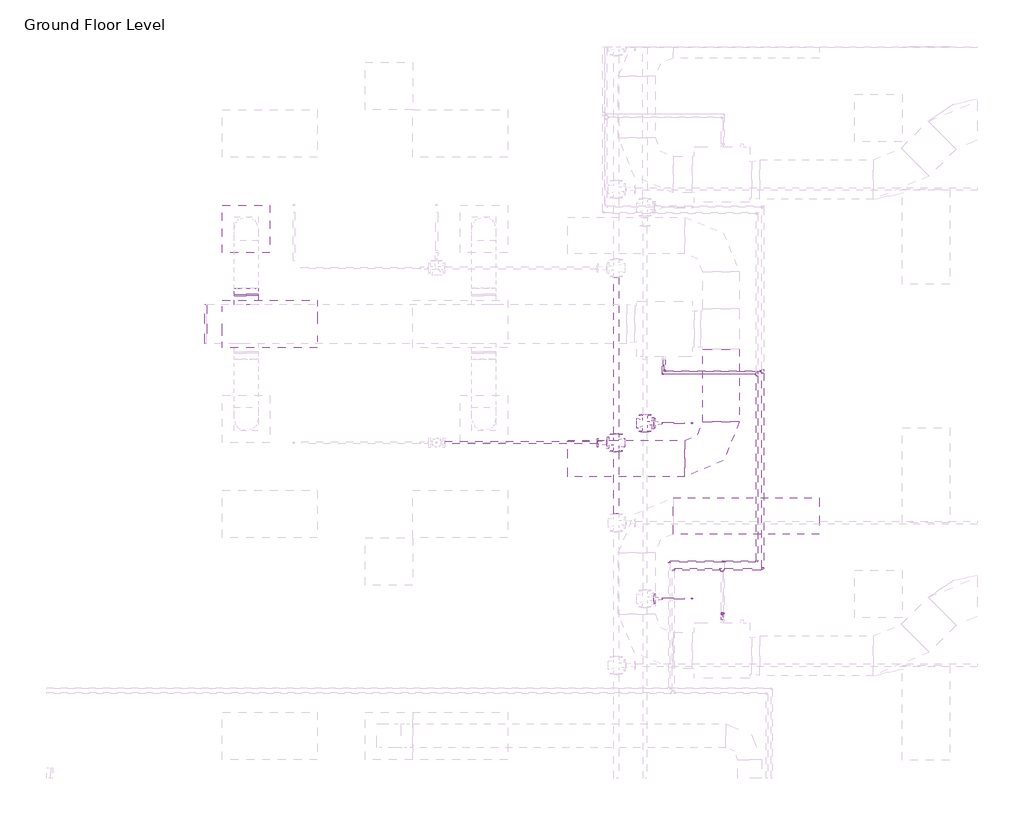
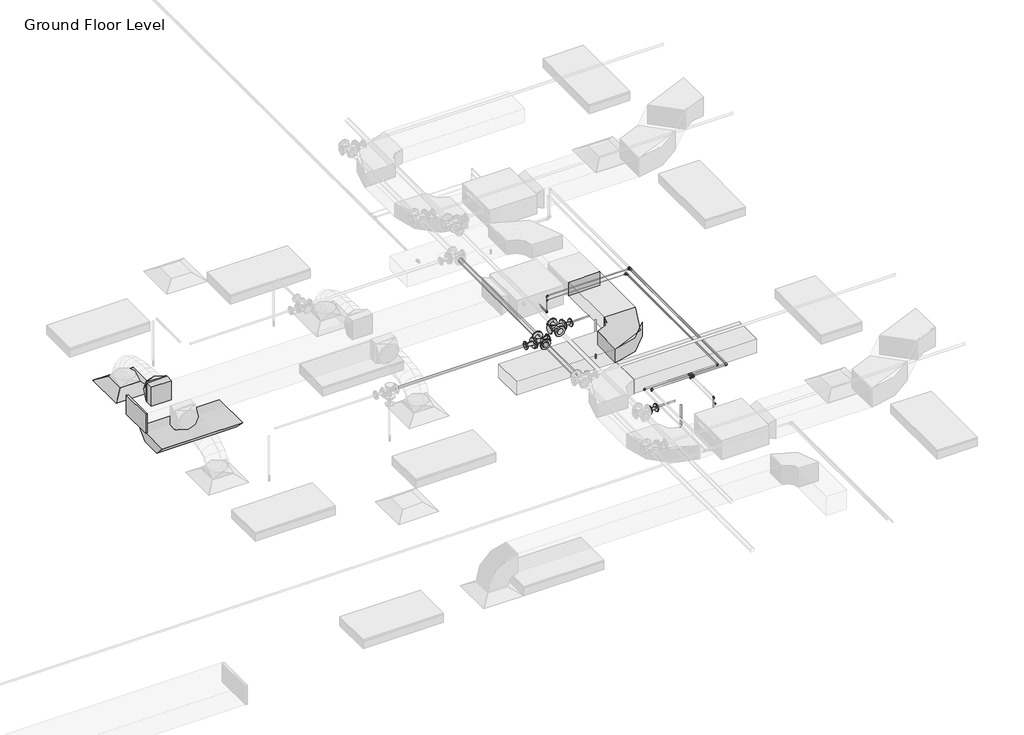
# One storey, part 60 of 74: 25 pipe fittings, 22 pipe segments, 5 duct fittings, 4 duct segments, 2 fire suppression terminals, 1 air terminal, 1 light fixture.
"""IFC4 building model written with IfcOpenShell, lengths in millimetres."""

from ifc_helpers import new_model, si_unit, point, frame, frame_2d, origin, place, context, project, spatial, polyline, circle_curve, trimmed, segment, composite_curve, outline, extrude, transform, mapped, element, save
from components import m_return_diffuser_600_x_600_face_300_x_300_connection_ff221211, m_rectangular_elbow_radius_1_w_0fa52825, m_rectangular_endcap_standard_72d4d00d, m_rectangular_takeoff_standard_2be5eba1, m_rectangular_transition_angle_45_degree_27e6000f, m_rectangular_to_round_transition_angle_45_degree_641efff0, m_sprinkler_pendent_15_mm_pendent_06fcbd8e, m_emergency_recessed_lighting_fixture_600x1200_277_5b10b25d, m_elbow_generic_standard_a088f956, m_elbow_generic_standard_2a704253, m_elbow_generic_standard_73005802, m_elbow_generic_standard_bb5ffebe, m_reducer_flanged_cs_class_150_standard_83138b42, m_reducer_flanged_cs_class_150_standard_5e9b2cee, m_tee_generic_standard_cdc1cff5, m_tee_generic_standard_bbfc025c, m_tee_round_base_flanged_cs_class_150_standard_dd767e04, m_tee_round_base_flanged_cs_class_150_standard_ab36f383, m_transition_generic_standard_e9aec4dd, m_transition_generic_standard_c2658a33

model = new_model("IFC4")

# Units and contexts
model_context = context("Model", 3, world=origin())
ifc_project = project(units=[si_unit("LENGTHUNIT", "METRE", prefix="MILLI")], contexts=[model_context])

# Site, building, storey
site = spatial("IfcSite", under=ifc_project)
building = spatial("IfcBuilding", under=site)
storey = spatial("IfcBuildingStorey", under=building, Name="Ground Floor Level", Elevation=900.0)

# Air terminal
placement = place(None, origin())
m_return_diffuser_600_x_600_face_300_x_300_connection_shape = m_return_diffuser_600_x_600_face_300_x_300_connection_ff221211(model_context)
element("IfcAirTerminal", 1, ObjectType="M_Supply Diffuser : 600 x 600 Face 300 x 300 Connection", at=placement, inside=storey, context=model_context, shape_type="MappedRepresentation", body=[
    mapped(m_return_diffuser_600_x_600_face_300_x_300_connection_shape, transform((962.7672395, 5335.2153534, 3650.0), x_axis=(1.0, 0.0, 0.0), y_axis=(0.0, 1.0, 0.0), z_axis=(0.0, 0.0, 1.0))),
])

# Duct fittings
m_rectangular_elbow_radius_1_w_shape = m_rectangular_elbow_radius_1_w_0fa52825(model_context)
element("IfcDuctFitting", 2, ObjectType="M_Rectangular Elbow - Radius : 1 W", at=placement, inside=storey, context=model_context, shape_type="MappedRepresentation", body=[
    mapped(m_rectangular_elbow_radius_1_w_shape, transform((6958.8139492, 2435.5824167, 4075.2875), x_axis=(1.0, 0.0, 0.0), y_axis=(0.0, 1.0, 0.0), z_axis=(0.0, 0.0, 1.0))),
])
m_rectangular_endcap_standard_shape = m_rectangular_endcap_standard_72d4d00d(model_context)
element("IfcDuctFitting", 3, ObjectType="M_Rectangular Endcap : Standard", at=placement, inside=storey, context=model_context, shape_type="MappedRepresentation", body=[
    mapped(m_rectangular_endcap_standard_shape, transform((468.0139492, 4135.0199167, 4099.9875), x_axis=(-0.9999999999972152, 0.0, -2.3600398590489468e-06), y_axis=(0.0, -1.0000000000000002, 0.0), z_axis=(-2.3600398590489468e-06, 0.0, 0.9999999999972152))),
])
m_rectangular_takeoff_standard_shape = m_rectangular_takeoff_standard_2be5eba1(model_context)
element("IfcDuctFitting", 4, ObjectType="M_Rectangular Takeoff : Standard", at=placement, inside=storey, context=model_context, shape_type="MappedRepresentation", body=[
    mapped(m_rectangular_takeoff_standard_shape, transform((962.7672395, 4385.0199167, 4099.9886676), x_axis=(0.0, 1.0, 0.0), y_axis=(1.0, 0.0, 0.0), z_axis=(0.0, 0.0, -1.0))),
])
m_rectangular_transition_angle_45_degree_shape = m_rectangular_transition_angle_45_degree_27e6000f(model_context)
element("IfcDuctFitting", 5, ObjectType="M_Rectangular Transition - Angle : 45 Degree", at=placement, inside=storey, context=model_context, shape_type="MappedRepresentation", body=[
    mapped(m_rectangular_transition_angle_45_degree_shape, transform((6958.8139492, 3815.5824167, 4075.2875), x_axis=(0.0, -1.0, 0.0), y_axis=(1.0, 0.0, 0.0), z_axis=(0.0, 0.0, 1.0))),
])
m_rectangular_to_round_transition_angle_45_degree_shape = m_rectangular_to_round_transition_angle_45_degree_641efff0(model_context)
element("IfcDuctFitting", 6, ObjectType="M_Rectangular to Round Transition - Angle : 45 Degree", at=placement, inside=storey, context=model_context, shape_type="MappedRepresentation", body=[
    mapped(m_rectangular_to_round_transition_angle_45_degree_shape, transform((962.7672395, 4507.8680897, 4099.9886676), x_axis=(0.0, 1.0, 0.0), y_axis=(-1.0, 0.0, 0.0), z_axis=(0.0, 0.0, 1.0))),
])

# Duct segments
element("IfcDuctSegment", 7, ObjectType="Radius Elbows / Taps", at=placement, inside=storey, context=model_context, shape_type="SweptSolid", body=[
    extrude(outline(polyline([(6355.2889492, 1478.7408949), (6355.2889492, 1940.6158949), (8193.4139492, 1940.6158949), (8193.4139492, 1478.7408949), (6355.2889492, 1478.7408949)])), frame((0.0, 0.0, 3968.1432729), z_axis=(0.0, 0.0, 1.0), x_axis=(1.0, 0.0, 0.0)), (0.0, 0.0, 1.0), 214.3),
])
element("IfcDuctSegment", 8, ObjectType="Radius Elbows / Taps", at=placement, inside=storey, context=model_context, shape_type="SweptSolid", body=[
    extrude(outline(polyline([(6727.8139492, 3815.2202847), (7189.8139492, 3815.2202847), (7189.8139492, 2897.5824167), (6727.8139492, 2897.5824167), (6727.8139492, 3815.2202847)])), frame((0.0, 0.0, 3968.2875), z_axis=(0.0, 0.0, 1.0), x_axis=(1.0, 0.0, 0.0)), (0.0, 0.0, 1.0), 214.0),
])
element("IfcDuctSegment", 9, ObjectType="Radius Elbows / Taps", at=placement, inside=storey, context=model_context, shape_type="SweptSolid", body=[
    extrude(outline(polyline([(6496.8139492, 2666.5824167), (6496.8139492, 2204.5824167), (5018.8139492, 2204.5824167), (5018.8139492, 2666.5824167), (6496.8139492, 2666.5824167)])), frame((0.0, 0.0, 3968.2875), z_axis=(0.0, 0.0, 1.0), x_axis=(1.0, 0.0, 0.0)), (0.0, 0.0, 1.0), 214.0),
])
element("IfcDuctSegment", 10, ObjectType="Radius Elbows / Taps", at=placement, inside=storey, context=model_context, shape_type="SweptSolid", body=[
    extrude(outline(polyline([(1112.7672395, 4486.6199167), (812.7672395, 4486.6199167), (812.7672395, 4507.8680897), (1112.7672395, 4507.8680897), (1112.7672395, 4486.6199167)])), frame((0.0, 0.0, 3949.9886676), z_axis=(0.0, 0.0, 1.0), x_axis=(1.0, 0.0, 0.0)), (0.0, 0.0, 1.0), 300.0),
])

# Fire suppression terminals
m_sprinkler_pendent_15_mm_pendent_shape = m_sprinkler_pendent_15_mm_pendent_06fcbd8e(model_context)
element("IfcFireSuppressionTerminal", 11, ObjectType="M_Sprinkler - Pendent : 15 mm Pendent", at=placement, inside=storey, context=model_context, shape_type="MappedRepresentation", body=[
    mapped(m_sprinkler_pendent_15_mm_pendent_shape, transform((6592.5481019, 2881.5134565, 3650.0), x_axis=(1.0, 0.0, 0.0), y_axis=(0.0, 1.0, 0.0), z_axis=(0.0, 0.0, 1.0))),
])
element("IfcFireSuppressionTerminal", 12, ObjectType="M_Sprinkler - Pendent : 15 mm Pendent", at=placement, inside=storey, context=model_context, shape_type="MappedRepresentation", body=[
    mapped(m_sprinkler_pendent_15_mm_pendent_shape, transform((6592.5481019, 666.6492065, 3650.0), x_axis=(1.0, 0.0, 0.0), y_axis=(0.0, 1.0, 0.0), z_axis=(0.0, 0.0, 1.0))),
])

# Light fixture
m_emergency_recessed_lighting_fixture_600x1200_277_shape = m_emergency_recessed_lighting_fixture_600x1200_277_5b10b25d(model_context)
element("IfcLightFixture", 13, ObjectType="M_Emergency Recessed Lighting Fixture : 600x1200 - 277", at=placement, inside=storey, context=model_context, shape_type="MappedRepresentation", body=[
    mapped(m_emergency_recessed_lighting_fixture_600x1200_277_shape, transform((662.7672395, 4435.2153534, 3650.0), x_axis=(1.0, 0.0, 0.0), y_axis=(0.0, 1.0, 0.0), z_axis=(0.0, 0.0, 1.0))),
])

# Pipe fittings
m_elbow_generic_standard_shape = m_elbow_generic_standard_a088f956(model_context)
element("IfcPipeFitting", 14, ObjectType="M_Elbow - Generic : Standard", at=placement, inside=storey, context=model_context, shape_type="MappedRepresentation", body=[
    mapped(m_elbow_generic_standard_shape, transform((6243.4139492, 3539.4875998, 4034.0875), x_axis=(0.0, -1.0, 0.0), y_axis=(0.0, 0.0, 1.0), z_axis=(-1.0, 0.0, 0.0))),
])
element("IfcPipeFitting", 15, ObjectType="M_Elbow - Generic : Standard", at=placement, inside=storey, context=model_context, shape_type="MappedRepresentation", body=[
    mapped(m_elbow_generic_standard_shape, transform((6243.4139492, 3539.4875998, 4300.0), x_axis=(0.0, 0.0, 1.0), y_axis=(1.0, 0.0, 0.0), z_axis=(0.0, 1.0, 0.0))),
])
element("IfcPipeFitting", 16, ObjectType="M_Elbow - Generic : Standard", at=placement, inside=storey, context=model_context, shape_type="MappedRepresentation", body=[
    mapped(m_elbow_generic_standard_shape, transform((6968.8139492, 477.4658847, 4034.0932729), x_axis=(0.0, 1.0, 0.0), y_axis=(0.0, 0.0, 1.0), z_axis=(1.0, 0.0, 0.0))),
])
element("IfcPipeFitting", 17, ObjectType="M_Elbow - Generic : Standard", at=placement, inside=storey, context=model_context, shape_type="MappedRepresentation", body=[
    mapped(m_elbow_generic_standard_shape, transform((6968.8139492, 477.4658847, 4300.0), x_axis=(0.0, 0.0, 1.0), y_axis=(0.0, 1.0, 0.0), z_axis=(-1.0, 0.0, 0.0))),
])
m_elbow_generic_standard_2_shape = m_elbow_generic_standard_2a704253(model_context)
element("IfcPipeFitting", 18, ObjectType="M_Elbow - Generic : Standard", at=placement, inside=storey, context=model_context, shape_type="MappedRepresentation", body=[
    mapped(m_elbow_generic_standard_2_shape, transform((6218.4139492, 3499.6030827, 4084.8875), x_axis=(0.0, -1.0, 0.0), y_axis=(0.0, 0.0, 1.0), z_axis=(-1.0, 0.0, 0.0))),
])
element("IfcPipeFitting", 19, ObjectType="M_Elbow - Generic : Standard", at=placement, inside=storey, context=model_context, shape_type="MappedRepresentation", body=[
    mapped(m_elbow_generic_standard_2_shape, transform((6218.4139492, 3499.6030827, 4265.0), x_axis=(0.0, 0.0, 1.0), y_axis=(1.0, 0.0, 0.0), z_axis=(0.0, 1.0, 0.0))),
])
element("IfcPipeFitting", 20, ObjectType="M_Elbow - Generic : Standard", at=placement, inside=storey, context=model_context, shape_type="MappedRepresentation", body=[
    mapped(m_elbow_generic_standard_2_shape, transform((6993.8139492, 474.3157767, 4200.0), x_axis=(0.0, 0.0, 1.0), y_axis=(0.0, 1.0, 0.0), z_axis=(-1.0, 0.0, 0.0))),
])
element("IfcPipeFitting", 21, ObjectType="M_Elbow - Generic : Standard", at=placement, inside=storey, context=model_context, shape_type="MappedRepresentation", body=[
    mapped(m_elbow_generic_standard_2_shape, transform((6993.8139492, 1134.0185138, 4200.0), x_axis=(0.0, 0.0, -1.0), y_axis=(0.0, -1.0, 0.0), z_axis=(-1.0, 0.0, 0.0))),
])
m_elbow_generic_standard_3_shape = m_elbow_generic_standard_73005802(model_context)
element("IfcPipeFitting", 22, ObjectType="M_Elbow - Generic : Standard", at=placement, inside=storey, context=model_context, shape_type="MappedRepresentation", body=[
    mapped(m_elbow_generic_standard_3_shape, transform((6355.3210494, 1036.0098545, 4300.0), x_axis=(-1.0, 0.0, 0.0), y_axis=(0.0, -1.0, 0.0), z_axis=(0.0, 0.0, 1.0))),
])
element("IfcPipeFitting", 23, ObjectType="M_Elbow - Generic : Standard", at=placement, inside=storey, context=model_context, shape_type="MappedRepresentation", body=[
    mapped(m_elbow_generic_standard_3_shape, transform((7485.0672395, 1036.0098545, 4300.0), x_axis=(1.0, 0.0, 0.0), y_axis=(0.0, 1.0, 0.0), z_axis=(0.0, 0.0, 1.0))),
])
m_elbow_generic_standard_4_shape = m_elbow_generic_standard_bb5ffebe(model_context)
element("IfcPipeFitting", 24, ObjectType="M_Elbow - Generic : Standard", at=placement, inside=storey, context=model_context, shape_type="MappedRepresentation", body=[
    mapped(m_elbow_generic_standard_4_shape, transform((6302.4595152, 1134.0185138, 4265.0), x_axis=(-1.0, 0.0, 0.0), y_axis=(0.0, -1.0, 0.0), z_axis=(0.0, 0.0, 1.0))),
])
element("IfcPipeFitting", 25, ObjectType="M_Elbow - Generic : Standard", at=placement, inside=storey, context=model_context, shape_type="MappedRepresentation", body=[
    mapped(m_elbow_generic_standard_4_shape, transform((7412.2057053, 1134.0185138, 4265.0), x_axis=(1.0, 0.0, 0.0), y_axis=(0.0, 1.0, 0.0), z_axis=(0.0, 0.0, 1.0))),
])
m_reducer_flanged_cs_class_150_standard_shape = m_reducer_flanged_cs_class_150_standard_83138b42(model_context)
element("IfcPipeFitting", 26, ObjectType="M_Reducer - Flanged - CS - Class 150 : Standard", at=placement, inside=storey, context=model_context, shape_type="MappedRepresentation", body=[
    mapped(m_reducer_flanged_cs_class_150_standard_shape, transform((6109.3164057, 2881.5134565, 4290.0), x_axis=(1.0, 0.0, 0.0), y_axis=(0.0, 0.0, -1.0), z_axis=(0.0, 1.0, 0.0))),
])
element("IfcPipeFitting", 27, ObjectType="M_Reducer - Flanged - CS - Class 150 : Standard", at=placement, inside=storey, context=model_context, shape_type="MappedRepresentation", body=[
    mapped(m_reducer_flanged_cs_class_150_standard_shape, transform((6109.3164057, 666.6492065, 4290.0), x_axis=(1.0, 0.0, 0.0), y_axis=(0.0, 0.0, -1.0), z_axis=(0.0, 1.0, 0.0))),
])
m_reducer_flanged_cs_class_150_standard_2_shape = m_reducer_flanged_cs_class_150_standard_5e9b2cee(model_context)
element("IfcPipeFitting", 28, ObjectType="M_Reducer - Flanged - CS - Class 150 : Standard", at=placement, inside=storey, context=model_context, shape_type="MappedRepresentation", body=[
    mapped(m_reducer_flanged_cs_class_150_standard_2_shape, transform((5521.869498, 2635.2153534, 4360.0), x_axis=(-1.0, 0.0, 0.0), y_axis=(0.0, 0.0, -1.0), z_axis=(0.0, -1.0, 0.0))),
])
m_tee_generic_standard_shape = m_tee_generic_standard_cdc1cff5(model_context)
element("IfcPipeFitting", 29, ObjectType="M_Tee - Generic : Standard", at=placement, inside=storey, context=model_context, shape_type="MappedRepresentation", body=[
    mapped(m_tee_generic_standard_shape, transform((7412.2057053, 3499.6030827, 4265.0), x_axis=(0.0, 1.0, 0.0), y_axis=(1.0, 0.0, 0.0), z_axis=(0.0, 0.0, -1.0))),
])
element("IfcPipeFitting", 30, ObjectType="M_Tee - Generic : Standard", at=placement, inside=storey, context=model_context, shape_type="MappedRepresentation", body=[
    mapped(m_tee_generic_standard_shape, transform((6993.8139492, 1134.0185138, 4265.0), x_axis=(1.0, 0.0, 0.0), y_axis=(0.0, 0.0, 1.0), z_axis=(0.0, -1.0, 0.0))),
])
m_tee_generic_standard_2_shape = m_tee_generic_standard_bbfc025c(model_context)
element("IfcPipeFitting", 31, ObjectType="M_Tee - Generic : Standard", at=placement, inside=storey, context=model_context, shape_type="MappedRepresentation", body=[
    mapped(m_tee_generic_standard_2_shape, transform((7485.0672395, 3539.4875998, 4300.0), x_axis=(0.0, 1.0, 0.0), y_axis=(1.0, 0.0, 0.0), z_axis=(0.0, 0.0, -1.0))),
])
element("IfcPipeFitting", 32, ObjectType="M_Tee - Generic : Standard", at=placement, inside=storey, context=model_context, shape_type="MappedRepresentation", body=[
    mapped(m_tee_generic_standard_2_shape, transform((6968.8139492, 1036.0098545, 4300.0), x_axis=(1.0, 0.0, 0.0), y_axis=(0.0, 1.0, 0.0), z_axis=(0.0, 0.0, 1.0))),
])
m_tee_round_base_flanged_cs_class_150_standard_shape = m_tee_round_base_flanged_cs_class_150_standard_dd767e04(model_context)
element("IfcPipeFitting", 33, ObjectType="M_Tee Round Base - Flanged - CS - Class 150 : Standard", at=placement, inside=storey, context=model_context, shape_type="MappedRepresentation", body=[
    mapped(m_tee_round_base_flanged_cs_class_150_standard_shape, transform((5635.869498, 2635.2153534, 4360.0), x_axis=(0.0, 1.0, 0.0), y_axis=(1.0, 0.0, 0.0), z_axis=(0.0, 0.0, -1.0))),
])
m_tee_round_base_flanged_cs_class_150_standard_2_shape = m_tee_round_base_flanged_cs_class_150_standard_ab36f383(model_context)
element("IfcPipeFitting", 34, ObjectType="M_Tee Round Base - Flanged - CS - Class 150 : Standard", at=placement, inside=storey, context=model_context, shape_type="MappedRepresentation", body=[
    mapped(m_tee_round_base_flanged_cs_class_150_standard_2_shape, transform((5997.057812, 2881.5134565, 4290.0), x_axis=(0.0, 1.0, 0.0), y_axis=(-1.0, 0.0, 0.0), z_axis=(0.0, 0.0, 1.0))),
])
m_transition_generic_standard_shape = m_transition_generic_standard_e9aec4dd(model_context)
element("IfcPipeFitting", 35, ObjectType="M_Transition - Generic : Standard", at=placement, inside=storey, context=model_context, shape_type="MappedRepresentation", body=[
    mapped(m_transition_generic_standard_shape, transform((7459.6672395, 3539.4875998, 4300.0), x_axis=(-1.0, 0.0, 0.0), y_axis=(0.0, -1.0, 0.0), z_axis=(0.0, 0.0, 1.0))),
])
element("IfcPipeFitting", 36, ObjectType="M_Transition - Generic : Standard", at=placement, inside=storey, context=model_context, shape_type="MappedRepresentation", body=[
    mapped(m_transition_generic_standard_shape, transform((6968.8139492, 1010.6098545, 4300.0), x_axis=(0.0, -1.0, 0.0), y_axis=(1.0, 0.0, 0.0), z_axis=(0.0, 0.0, 1.0))),
])
m_transition_generic_standard_2_shape = m_transition_generic_standard_c2658a33(model_context)
element("IfcPipeFitting", 37, ObjectType="M_Transition - Generic : Standard", at=placement, inside=storey, context=model_context, shape_type="MappedRepresentation", body=[
    mapped(m_transition_generic_standard_2_shape, transform((7389.9807053, 3499.6030827, 4265.0), x_axis=(-1.0, 0.0, 0.0), y_axis=(0.0, -1.0, 0.0), z_axis=(0.0, 0.0, 1.0))),
])
element("IfcPipeFitting", 38, ObjectType="M_Transition - Generic : Standard", at=placement, inside=storey, context=model_context, shape_type="MappedRepresentation", body=[
    mapped(m_transition_generic_standard_2_shape, transform((6993.8139492, 1134.0185138, 4242.775), x_axis=(0.0, 0.0, -1.0), y_axis=(1.0, 0.0, 0.0), z_axis=(0.0, -1.0, 0.0))),
])

# Pipe segments
element("IfcPipeSegment", 39, ObjectType="Copper", at=placement, inside=storey, context=model_context, shape_type="SweptSolid", body=[
    extrude(outline(composite_curve([segment(trimmed(circle_curve(frame_2d((3499.6030827, 4265.0)), 3.35), [point((3496.2530827, 4265.0))], [point((3499.6030827, 4268.35))], False, "CARTESIAN"), True, "CONTINUOUS"), segment(trimmed(circle_curve(frame_2d((3499.6030827, 4265.0)), 3.35), [point((3499.6030827, 4268.35))], [point((3502.9530827, 4265.0))], False, "CARTESIAN"), True, "CONTINUOUS"), segment(trimmed(circle_curve(frame_2d((3499.6030827, 4265.0)), 3.35), [point((3502.9530827, 4265.0))], [point((3499.6030827, 4261.65))], False, "CARTESIAN"), True, "CONTINUOUS"), segment(trimmed(circle_curve(frame_2d((3499.6030827, 4265.0)), 3.35), [point((3499.6030827, 4261.65))], [point((3496.2530827, 4265.0))], False, "CARTESIAN"), True, "CONTINUOUS")], self_intersect=False)), frame((6229.5514492, 0.0, 0.0), z_axis=(1.0, 0.0, 0.0), x_axis=(0.0, 1.0, 0.0)), (0.0, 0.0, 1.0), 1155.666756),
])
element("IfcPipeSegment", 40, ObjectType="Copper", at=placement, inside=storey, context=model_context, shape_type="SweptSolid", body=[
    extrude(outline(composite_curve([segment(trimmed(circle_curve(frame_2d((3539.4875998, 4300.0)), 6.5), [point((3532.9875998, 4300.0))], [point((3539.4875998, 4306.5))], False, "CARTESIAN"), True, "CONTINUOUS"), segment(trimmed(circle_curve(frame_2d((3539.4875998, 4300.0)), 6.5), [point((3539.4875998, 4306.5))], [point((3545.9875998, 4300.0))], False, "CARTESIAN"), True, "CONTINUOUS"), segment(trimmed(circle_curve(frame_2d((3539.4875998, 4300.0)), 6.5), [point((3545.9875998, 4300.0))], [point((3539.4875998, 4293.5))], False, "CARTESIAN"), True, "CONTINUOUS"), segment(trimmed(circle_curve(frame_2d((3539.4875998, 4300.0)), 6.5), [point((3539.4875998, 4293.5))], [point((3532.9875998, 4300.0))], False, "CARTESIAN"), True, "CONTINUOUS")], self_intersect=False)), frame((6257.7014492, 0.0, 0.0), z_axis=(1.0, 0.0, 0.0), x_axis=(0.0, 1.0, 0.0)), (0.0, 0.0, 1.0), 1195.6157902),
])
element("IfcPipeSegment", 41, ObjectType="Copper", at=placement, inside=storey, context=model_context, shape_type="SweptSolid", body=[
    extrude(outline(composite_curve([segment(trimmed(circle_curve(frame_2d((4265.0, 7412.2057053)), 8.1), [point((4265.0, 7404.1057053))], [point((4256.9, 7412.2057053))], False, "CARTESIAN"), True, "CONTINUOUS"), segment(trimmed(circle_curve(frame_2d((4265.0, 7412.2057053)), 8.1), [point((4256.9, 7412.2057053))], [point((4265.0, 7420.3057053))], False, "CARTESIAN"), True, "CONTINUOUS"), segment(trimmed(circle_curve(frame_2d((4265.0, 7412.2057053)), 8.1), [point((4265.0, 7420.3057053))], [point((4273.1, 7412.2057053))], False, "CARTESIAN"), True, "CONTINUOUS"), segment(trimmed(circle_curve(frame_2d((4265.0, 7412.2057053)), 8.1), [point((4273.1, 7412.2057053))], [point((4265.0, 7404.1057053))], False, "CARTESIAN"), True, "CONTINUOUS")], self_intersect=False)), frame((0.0, 1149.8935138, 0.0), z_axis=(0.0, 1.0, 0.0), x_axis=(0.0, 0.0, 1.0)), (0.0, 0.0, 1.0), 2327.4845689),
])
element("IfcPipeSegment", 42, ObjectType="Copper", at=placement, inside=storey, context=model_context, shape_type="SweptSolid", body=[
    extrude(outline(composite_curve([segment(trimmed(circle_curve(frame_2d((4300.0, 7485.0672395)), 11.5), [point((4300.0, 7496.5672395))], [point((4311.5, 7485.0672395))], False, "CARTESIAN"), True, "CONTINUOUS"), segment(trimmed(circle_curve(frame_2d((4300.0, 7485.0672395)), 11.5), [point((4311.5, 7485.0672395))], [point((4300.0, 7473.5672395))], False, "CARTESIAN"), True, "CONTINUOUS"), segment(trimmed(circle_curve(frame_2d((4300.0, 7485.0672395)), 11.5), [point((4300.0, 7473.5672395))], [point((4288.5, 7485.0672395))], False, "CARTESIAN"), True, "CONTINUOUS"), segment(trimmed(circle_curve(frame_2d((4300.0, 7485.0672395)), 11.5), [point((4288.5, 7485.0672395))], [point((4300.0, 7496.5672395))], False, "CARTESIAN"), True, "CONTINUOUS")], self_intersect=False)), frame((0.0, 1055.0598545, 0.0), z_axis=(0.0, 1.0, 0.0), x_axis=(0.0, 0.0, 1.0)), (0.0, 0.0, 1.0), 2459.0277453),
])
element("IfcPipeSegment", 43, ObjectType="Copper", at=placement, inside=storey, context=model_context, shape_type="SweptSolid", body=[
    extrude(outline(composite_curve([segment(trimmed(circle_curve(frame_2d((4034.0875, 6243.4139492)), 6.5), [point((4034.0875, 6236.9139492))], [point((4027.5875, 6243.4139492))], False, "CARTESIAN"), True, "CONTINUOUS"), segment(trimmed(circle_curve(frame_2d((4034.0875, 6243.4139492)), 6.5), [point((4027.5875, 6243.4139492))], [point((4034.0875, 6249.9139492))], False, "CARTESIAN"), True, "CONTINUOUS"), segment(trimmed(circle_curve(frame_2d((4034.0875, 6243.4139492)), 6.5), [point((4034.0875, 6249.9139492))], [point((4040.5875, 6243.4139492))], False, "CARTESIAN"), True, "CONTINUOUS"), segment(trimmed(circle_curve(frame_2d((4034.0875, 6243.4139492)), 6.5), [point((4040.5875, 6243.4139492))], [point((4034.0875, 6236.9139492))], False, "CARTESIAN"), True, "CONTINUOUS")], self_intersect=False)), frame((0.0, 3553.7750998, 0.0), z_axis=(0.0, 1.0, 0.0), x_axis=(0.0, 0.0, 1.0)), (0.0, 0.0, 1.0), 129.6448169),
])
element("IfcPipeSegment", 44, ObjectType="Copper", at=placement, inside=storey, context=model_context, shape_type="SweptSolid", body=[
    extrude(outline(composite_curve([segment(trimmed(circle_curve(frame_2d((4084.8875, 6218.4139492)), 3.35), [point((4084.8875, 6215.0639492))], [point((4081.5375, 6218.4139492))], False, "CARTESIAN"), True, "CONTINUOUS"), segment(trimmed(circle_curve(frame_2d((4084.8875, 6218.4139492)), 3.35), [point((4081.5375, 6218.4139492))], [point((4084.8875, 6221.7639492))], False, "CARTESIAN"), True, "CONTINUOUS"), segment(trimmed(circle_curve(frame_2d((4084.8875, 6218.4139492)), 3.35), [point((4084.8875, 6221.7639492))], [point((4088.2375, 6218.4139492))], False, "CARTESIAN"), True, "CONTINUOUS"), segment(trimmed(circle_curve(frame_2d((4084.8875, 6218.4139492)), 3.35), [point((4088.2375, 6218.4139492))], [point((4084.8875, 6215.0639492))], False, "CARTESIAN"), True, "CONTINUOUS")], self_intersect=False)), frame((0.0, 3510.7405827, 0.0), z_axis=(0.0, 1.0, 0.0), x_axis=(0.0, 0.0, 1.0)), (0.0, 0.0, 1.0), 172.679334),
])
element("IfcPipeSegment", 45, ObjectType="Copper", at=placement, inside=storey, context=model_context, shape_type="SweptSolid", body=[
    extrude(outline(composite_curve([segment(trimmed(circle_curve(frame_2d((6218.4139492, 3499.6030827)), 3.35), [point((6215.0639492, 3499.6030827))], [point((6218.4139492, 3502.9530827))], False, "CARTESIAN"), True, "CONTINUOUS"), segment(trimmed(circle_curve(frame_2d((6218.4139492, 3499.6030827)), 3.35), [point((6218.4139492, 3502.9530827))], [point((6221.7639492, 3499.6030827))], False, "CARTESIAN"), True, "CONTINUOUS"), segment(trimmed(circle_curve(frame_2d((6218.4139492, 3499.6030827)), 3.35), [point((6221.7639492, 3499.6030827))], [point((6218.4139492, 3496.2530827))], False, "CARTESIAN"), True, "CONTINUOUS"), segment(trimmed(circle_curve(frame_2d((6218.4139492, 3499.6030827)), 3.35), [point((6218.4139492, 3496.2530827))], [point((6215.0639492, 3499.6030827))], False, "CARTESIAN"), True, "CONTINUOUS")], self_intersect=False)), frame((0.0, 0.0, 4096.025), z_axis=(0.0, 0.0, 1.0), x_axis=(1.0, 0.0, 0.0)), (0.0, 0.0, 1.0), 157.8375),
])
element("IfcPipeSegment", 46, ObjectType="Copper", at=placement, inside=storey, context=model_context, shape_type="SweptSolid", body=[
    extrude(outline(composite_curve([segment(trimmed(circle_curve(frame_2d((6243.4139492, 3539.4875998)), 6.5), [point((6236.9139492, 3539.4875998))], [point((6243.4139492, 3545.9875998))], False, "CARTESIAN"), True, "CONTINUOUS"), segment(trimmed(circle_curve(frame_2d((6243.4139492, 3539.4875998)), 6.5), [point((6243.4139492, 3545.9875998))], [point((6249.9139492, 3539.4875998))], False, "CARTESIAN"), True, "CONTINUOUS"), segment(trimmed(circle_curve(frame_2d((6243.4139492, 3539.4875998)), 6.5), [point((6249.9139492, 3539.4875998))], [point((6243.4139492, 3532.9875998))], False, "CARTESIAN"), True, "CONTINUOUS"), segment(trimmed(circle_curve(frame_2d((6243.4139492, 3539.4875998)), 6.5), [point((6243.4139492, 3532.9875998))], [point((6236.9139492, 3539.4875998))], False, "CARTESIAN"), True, "CONTINUOUS")], self_intersect=False)), frame((0.0, 0.0, 4048.375), z_axis=(0.0, 0.0, 1.0), x_axis=(1.0, 0.0, 0.0)), (0.0, 0.0, 1.0), 237.3375),
])
element("IfcPipeSegment", 47, ObjectType="Copper", at=placement, inside=storey, context=model_context, shape_type="SweptSolid", body=[
    extrude(outline(composite_curve([segment(trimmed(circle_curve(frame_2d((1134.0185138, 4265.0)), 8.1), [point((1142.1185138, 4265.0))], [point((1134.0185138, 4256.9))], False, "CARTESIAN"), True, "CONTINUOUS"), segment(trimmed(circle_curve(frame_2d((1134.0185138, 4265.0)), 8.1), [point((1134.0185138, 4256.9))], [point((1125.9185138, 4265.0))], False, "CARTESIAN"), True, "CONTINUOUS"), segment(trimmed(circle_curve(frame_2d((1134.0185138, 4265.0)), 8.1), [point((1125.9185138, 4265.0))], [point((1134.0185138, 4273.1))], False, "CARTESIAN"), True, "CONTINUOUS"), segment(trimmed(circle_curve(frame_2d((1134.0185138, 4265.0)), 8.1), [point((1134.0185138, 4273.1))], [point((1142.1185138, 4265.0))], False, "CARTESIAN"), True, "CONTINUOUS")], self_intersect=False)), frame((6318.3345152, 0.0, 0.0), z_axis=(1.0, 0.0, 0.0), x_axis=(0.0, 1.0, 0.0)), (0.0, 0.0, 1.0), 653.254434),
])
element("IfcPipeSegment", 48, ObjectType="Copper", at=placement, inside=storey, context=model_context, shape_type="SweptSolid", body=[
    extrude(outline(composite_curve([segment(trimmed(circle_curve(frame_2d((1036.0098545, 4300.0)), 11.5), [point((1047.5098545, 4300.0))], [point((1036.0098545, 4288.5))], False, "CARTESIAN"), True, "CONTINUOUS"), segment(trimmed(circle_curve(frame_2d((1036.0098545, 4300.0)), 11.5), [point((1036.0098545, 4288.5))], [point((1024.5098545, 4300.0))], False, "CARTESIAN"), True, "CONTINUOUS"), segment(trimmed(circle_curve(frame_2d((1036.0098545, 4300.0)), 11.5), [point((1024.5098545, 4300.0))], [point((1036.0098545, 4311.5))], False, "CARTESIAN"), True, "CONTINUOUS"), segment(trimmed(circle_curve(frame_2d((1036.0098545, 4300.0)), 11.5), [point((1036.0098545, 4311.5))], [point((1047.5098545, 4300.0))], False, "CARTESIAN"), True, "CONTINUOUS")], self_intersect=False)), frame((6374.3710494, 0.0, 0.0), z_axis=(1.0, 0.0, 0.0), x_axis=(0.0, 1.0, 0.0)), (0.0, 0.0, 1.0), 569.0428998),
])
element("IfcPipeSegment", 49, ObjectType="Copper", at=placement, inside=storey, context=model_context, shape_type="SweptSolid", body=[
    extrude(outline(composite_curve([segment(trimmed(circle_curve(frame_2d((4034.0932729, 6968.8139492)), 6.5), [point((4034.0932729, 6975.3139492))], [point((4040.5932729, 6968.8139492))], False, "CARTESIAN"), True, "CONTINUOUS"), segment(trimmed(circle_curve(frame_2d((4034.0932729, 6968.8139492)), 6.5), [point((4040.5932729, 6968.8139492))], [point((4034.0932729, 6962.3139492))], False, "CARTESIAN"), True, "CONTINUOUS"), segment(trimmed(circle_curve(frame_2d((4034.0932729, 6968.8139492)), 6.5), [point((4034.0932729, 6962.3139492))], [point((4027.5932729, 6968.8139492))], False, "CARTESIAN"), True, "CONTINUOUS"), segment(trimmed(circle_curve(frame_2d((4034.0932729, 6968.8139492)), 6.5), [point((4027.5932729, 6968.8139492))], [point((4034.0932729, 6975.3139492))], False, "CARTESIAN"), True, "CONTINUOUS")], self_intersect=False)), frame((0.0, 397.7779527, 0.0), z_axis=(0.0, 1.0, 0.0), x_axis=(0.0, 0.0, 1.0)), (0.0, 0.0, 1.0), 65.4004321),
])
element("IfcPipeSegment", 50, ObjectType="Copper", at=placement, inside=storey, context=model_context, shape_type="SweptSolid", body=[
    extrude(outline(composite_curve([segment(trimmed(circle_curve(frame_2d((6968.8139492, 477.4658847)), 6.5), [point((6962.3139492, 477.4658847))], [point((6968.8139492, 483.9658847))], False, "CARTESIAN"), True, "CONTINUOUS"), segment(trimmed(circle_curve(frame_2d((6968.8139492, 477.4658847)), 6.5), [point((6968.8139492, 483.9658847))], [point((6975.3139492, 477.4658847))], False, "CARTESIAN"), True, "CONTINUOUS"), segment(trimmed(circle_curve(frame_2d((6968.8139492, 477.4658847)), 6.5), [point((6975.3139492, 477.4658847))], [point((6968.8139492, 470.9658847))], False, "CARTESIAN"), True, "CONTINUOUS"), segment(trimmed(circle_curve(frame_2d((6968.8139492, 477.4658847)), 6.5), [point((6968.8139492, 470.9658847))], [point((6962.3139492, 477.4658847))], False, "CARTESIAN"), True, "CONTINUOUS")], self_intersect=False)), frame((0.0, 0.0, 4048.3807729), z_axis=(0.0, 0.0, 1.0), x_axis=(1.0, 0.0, 0.0)), (0.0, 0.0, 1.0), 237.3317271),
])
element("IfcPipeSegment", 51, ObjectType="Copper", at=placement, inside=storey, context=model_context, shape_type="SweptSolid", body=[
    extrude(outline(composite_curve([segment(trimmed(circle_curve(frame_2d((1036.0098545, 4300.0)), 11.5), [point((1047.5098545, 4300.0))], [point((1036.0098545, 4288.5))], False, "CARTESIAN"), True, "CONTINUOUS"), segment(trimmed(circle_curve(frame_2d((1036.0098545, 4300.0)), 11.5), [point((1036.0098545, 4288.5))], [point((1024.5098545, 4300.0))], False, "CARTESIAN"), True, "CONTINUOUS"), segment(trimmed(circle_curve(frame_2d((1036.0098545, 4300.0)), 11.5), [point((1024.5098545, 4300.0))], [point((1036.0098545, 4311.5))], False, "CARTESIAN"), True, "CONTINUOUS"), segment(trimmed(circle_curve(frame_2d((1036.0098545, 4300.0)), 11.5), [point((1036.0098545, 4311.5))], [point((1047.5098545, 4300.0))], False, "CARTESIAN"), True, "CONTINUOUS")], self_intersect=False)), frame((6994.2139492, 0.0, 0.0), z_axis=(1.0, 0.0, 0.0), x_axis=(0.0, 1.0, 0.0)), (0.0, 0.0, 1.0), 471.8032902),
])
element("IfcPipeSegment", 52, ObjectType="Copper", at=placement, inside=storey, context=model_context, shape_type="SweptSolid", body=[
    extrude(outline(composite_curve([segment(trimmed(circle_curve(frame_2d((6993.8139492, 1134.0185138)), 3.35), [point((6997.1639492, 1134.0185138))], [point((6993.8139492, 1130.6685138))], False, "CARTESIAN"), True, "CONTINUOUS"), segment(trimmed(circle_curve(frame_2d((6993.8139492, 1134.0185138)), 3.35), [point((6993.8139492, 1130.6685138))], [point((6990.4639492, 1134.0185138))], False, "CARTESIAN"), True, "CONTINUOUS"), segment(trimmed(circle_curve(frame_2d((6993.8139492, 1134.0185138)), 3.35), [point((6990.4639492, 1134.0185138))], [point((6993.8139492, 1137.3685138))], False, "CARTESIAN"), True, "CONTINUOUS"), segment(trimmed(circle_curve(frame_2d((6993.8139492, 1134.0185138)), 3.35), [point((6993.8139492, 1137.3685138))], [point((6997.1639492, 1134.0185138))], False, "CARTESIAN"), True, "CONTINUOUS")], self_intersect=False)), frame((0.0, 0.0, 4211.1375), z_axis=(0.0, 0.0, 1.0), x_axis=(1.0, 0.0, 0.0)), (0.0, 0.0, 1.0), 26.875),
])
element("IfcPipeSegment", 53, ObjectType="Copper", at=placement, inside=storey, context=model_context, shape_type="SweptSolid", body=[
    extrude(outline(composite_curve([segment(trimmed(circle_curve(frame_2d((1134.0185138, 4265.0)), 8.1), [point((1142.1185138, 4265.0))], [point((1134.0185138, 4256.9))], False, "CARTESIAN"), True, "CONTINUOUS"), segment(trimmed(circle_curve(frame_2d((1134.0185138, 4265.0)), 8.1), [point((1134.0185138, 4256.9))], [point((1125.9185138, 4265.0))], False, "CARTESIAN"), True, "CONTINUOUS"), segment(trimmed(circle_curve(frame_2d((1134.0185138, 4265.0)), 8.1), [point((1125.9185138, 4265.0))], [point((1134.0185138, 4273.1))], False, "CARTESIAN"), True, "CONTINUOUS"), segment(trimmed(circle_curve(frame_2d((1134.0185138, 4265.0)), 8.1), [point((1134.0185138, 4273.1))], [point((1142.1185138, 4265.0))], False, "CARTESIAN"), True, "CONTINUOUS")], self_intersect=False)), frame((7016.0389492, 0.0, 0.0), z_axis=(1.0, 0.0, 0.0), x_axis=(0.0, 1.0, 0.0)), (0.0, 0.0, 1.0), 380.291756),
])
element("IfcPipeSegment", 54, ObjectType="Steel flanged", at=placement, inside=storey, context=model_context, shape_type="SweptSolid", body=[
    extrude(outline(composite_curve([segment(trimmed(circle_curve(frame_2d((6592.5481019, 2881.5134565)), 10.668), [point((6581.8801019, 2881.5134565))], [point((6592.5481019, 2892.1814565))], False, "CARTESIAN"), True, "CONTINUOUS"), segment(trimmed(circle_curve(frame_2d((6592.5481019, 2881.5134565)), 10.668), [point((6592.5481019, 2892.1814565))], [point((6603.2161019, 2881.5134565))], False, "CARTESIAN"), True, "CONTINUOUS"), segment(trimmed(circle_curve(frame_2d((6592.5481019, 2881.5134565)), 10.668), [point((6603.2161019, 2881.5134565))], [point((6592.5481019, 2870.8454565))], False, "CARTESIAN"), True, "CONTINUOUS"), segment(trimmed(circle_curve(frame_2d((6592.5481019, 2881.5134565)), 10.668), [point((6592.5481019, 2870.8454565))], [point((6581.8801019, 2881.5134565))], False, "CARTESIAN"), True, "CONTINUOUS")], self_intersect=False)), frame((0.0, 0.0, 3650.0), z_axis=(0.0, 0.0, 1.0), x_axis=(1.0, 0.0, 0.0)), (0.0, 0.0, 1.0), 546.9914062),
])
element("IfcPipeSegment", 55, ObjectType="Steel flanged", at=placement, inside=storey, context=model_context, shape_type="SweptSolid", body=[
    extrude(outline(composite_curve([segment(trimmed(circle_curve(frame_2d((2881.5134565, 4290.0)), 10.668), [point((2892.1814565, 4290.0))], [point((2881.5134565, 4279.332))], False, "CARTESIAN"), True, "CONTINUOUS"), segment(trimmed(circle_curve(frame_2d((2881.5134565, 4290.0)), 10.668), [point((2881.5134565, 4279.332))], [point((2870.8454565, 4290.0))], False, "CARTESIAN"), True, "CONTINUOUS"), segment(trimmed(circle_curve(frame_2d((2881.5134565, 4290.0)), 10.668), [point((2870.8454565, 4290.0))], [point((2881.5134565, 4300.668))], False, "CARTESIAN"), True, "CONTINUOUS"), segment(trimmed(circle_curve(frame_2d((2881.5134565, 4290.0)), 10.668), [point((2881.5134565, 4300.668))], [point((2892.1814565, 4290.0))], False, "CARTESIAN"), True, "CONTINUOUS")], self_intersect=False)), frame((6223.3164057, 0.0, 0.0), z_axis=(1.0, 0.0, 0.0), x_axis=(0.0, 1.0, 0.0)), (0.0, 0.0, 1.0), 276.2231025),
])
element("IfcPipeSegment", 56, ObjectType="Steel flanged", at=placement, inside=storey, context=model_context, shape_type="SweptSolid", body=[
    extrude(outline(composite_curve([segment(trimmed(circle_curve(frame_2d((6592.5481019, 666.6492065)), 10.668), [point((6581.8801019, 666.6492065))], [point((6592.5481019, 677.3172065))], False, "CARTESIAN"), True, "CONTINUOUS"), segment(trimmed(circle_curve(frame_2d((6592.5481019, 666.6492065)), 10.668), [point((6592.5481019, 677.3172065))], [point((6603.2161019, 666.6492065))], False, "CARTESIAN"), True, "CONTINUOUS"), segment(trimmed(circle_curve(frame_2d((6592.5481019, 666.6492065)), 10.668), [point((6603.2161019, 666.6492065))], [point((6592.5481019, 655.9812065))], False, "CARTESIAN"), True, "CONTINUOUS"), segment(trimmed(circle_curve(frame_2d((6592.5481019, 666.6492065)), 10.668), [point((6592.5481019, 655.9812065))], [point((6581.8801019, 666.6492065))], False, "CARTESIAN"), True, "CONTINUOUS")], self_intersect=False)), frame((0.0, 0.0, 3650.0), z_axis=(0.0, 0.0, 1.0), x_axis=(1.0, 0.0, 0.0)), (0.0, 0.0, 1.0), 546.9914062),
])
element("IfcPipeSegment", 57, ObjectType="Steel flanged", at=placement, inside=storey, context=model_context, shape_type="SweptSolid", body=[
    extrude(outline(composite_curve([segment(trimmed(circle_curve(frame_2d((666.6492065, 4290.0)), 10.668), [point((677.3172065, 4290.0))], [point((666.6492065, 4279.332))], False, "CARTESIAN"), True, "CONTINUOUS"), segment(trimmed(circle_curve(frame_2d((666.6492065, 4290.0)), 10.668), [point((666.6492065, 4279.332))], [point((655.9812065, 4290.0))], False, "CARTESIAN"), True, "CONTINUOUS"), segment(trimmed(circle_curve(frame_2d((666.6492065, 4290.0)), 10.668), [point((655.9812065, 4290.0))], [point((666.6492065, 4300.668))], False, "CARTESIAN"), True, "CONTINUOUS"), segment(trimmed(circle_curve(frame_2d((666.6492065, 4290.0)), 10.668), [point((666.6492065, 4300.668))], [point((677.3172065, 4290.0))], False, "CARTESIAN"), True, "CONTINUOUS")], self_intersect=False)), frame((6223.3164057, 0.0, 0.0), z_axis=(1.0, 0.0, 0.0), x_axis=(0.0, 1.0, 0.0)), (0.0, 0.0, 1.0), 276.2231025),
])
element("IfcPipeSegment", 58, ObjectType="Steel flanged", at=placement, inside=storey, context=model_context, shape_type="SweptSolid", body=[
    extrude(outline(composite_curve([segment(trimmed(circle_curve(frame_2d((4360.0, 5635.869498)), 30.1625), [point((4360.0, 5605.706998))], [point((4329.8375, 5635.869498))], False, "CARTESIAN"), True, "CONTINUOUS"), segment(trimmed(circle_curve(frame_2d((4360.0, 5635.869498)), 30.1625), [point((4329.8375, 5635.869498))], [point((4360.0, 5666.031998))], False, "CARTESIAN"), True, "CONTINUOUS"), segment(trimmed(circle_curve(frame_2d((4360.0, 5635.869498)), 30.1625), [point((4360.0, 5666.031998))], [point((4390.1625, 5635.869498))], False, "CARTESIAN"), True, "CONTINUOUS"), segment(trimmed(circle_curve(frame_2d((4360.0, 5635.869498)), 30.1625), [point((4390.1625, 5635.869498))], [point((4360.0, 5605.706998))], False, "CARTESIAN"), True, "CONTINUOUS")], self_intersect=False)), frame((0.0, 1739.2153534, 0.0), z_axis=(0.0, 1.0, 0.0), x_axis=(0.0, 0.0, 1.0)), (0.0, 0.0, 1.0), 782.0),
])
element("IfcPipeSegment", 59, ObjectType="Steel flanged", at=placement, inside=storey, context=model_context, shape_type="SweptSolid", body=[
    extrude(outline(composite_curve([segment(trimmed(circle_curve(frame_2d((4360.0, 5635.869498)), 30.1625), [point((4360.0, 5605.706998))], [point((4329.8375, 5635.869498))], False, "CARTESIAN"), True, "CONTINUOUS"), segment(trimmed(circle_curve(frame_2d((4360.0, 5635.869498)), 30.1625), [point((4329.8375, 5635.869498))], [point((4360.0, 5666.031998))], False, "CARTESIAN"), True, "CONTINUOUS"), segment(trimmed(circle_curve(frame_2d((4360.0, 5635.869498)), 30.1625), [point((4360.0, 5666.031998))], [point((4390.1625, 5635.869498))], False, "CARTESIAN"), True, "CONTINUOUS"), segment(trimmed(circle_curve(frame_2d((4360.0, 5635.869498)), 30.1625), [point((4390.1625, 5635.869498))], [point((4360.0, 5605.706998))], False, "CARTESIAN"), True, "CONTINUOUS")], self_intersect=False)), frame((0.0, 2749.2153534, 0.0), z_axis=(0.0, 1.0, 0.0), x_axis=(0.0, 0.0, 1.0)), (0.0, 0.0, 1.0), 1976.6545378),
])
element("IfcPipeSegment", 60, ObjectType="Steel flanged", at=placement, inside=storey, context=model_context, shape_type="SweptSolid", body=[
    extrude(outline(composite_curve([segment(trimmed(circle_curve(frame_2d((2635.2153534, 4360.0)), 16.7005), [point((2618.5148534, 4360.0))], [point((2635.2153534, 4376.7005))], False, "CARTESIAN"), True, "CONTINUOUS"), segment(trimmed(circle_curve(frame_2d((2635.2153534, 4360.0)), 16.7005), [point((2635.2153534, 4376.7005))], [point((2651.9158534, 4360.0))], False, "CARTESIAN"), True, "CONTINUOUS"), segment(trimmed(circle_curve(frame_2d((2635.2153534, 4360.0)), 16.7005), [point((2651.9158534, 4360.0))], [point((2635.2153534, 4343.2995))], False, "CARTESIAN"), True, "CONTINUOUS"), segment(trimmed(circle_curve(frame_2d((2635.2153534, 4360.0)), 16.7005), [point((2635.2153534, 4343.2995))], [point((2618.5148534, 4360.0))], False, "CARTESIAN"), True, "CONTINUOUS")], self_intersect=False)), frame((3468.08585, 0.0, 0.0), z_axis=(1.0, 0.0, 0.0), x_axis=(0.0, 1.0, 0.0)), (0.0, 0.0, 1.0), 1926.783648),
])

save(model, "model.ifc")
